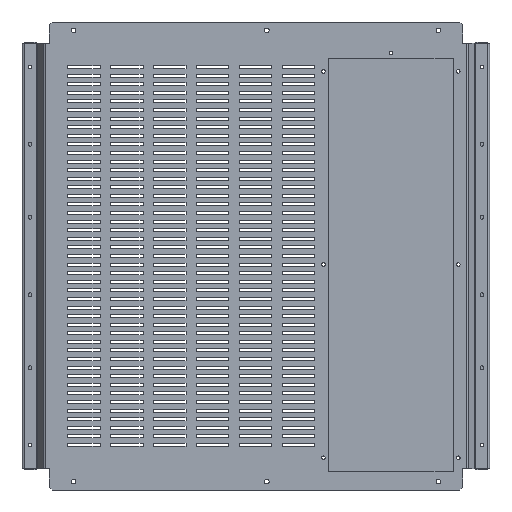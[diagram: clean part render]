
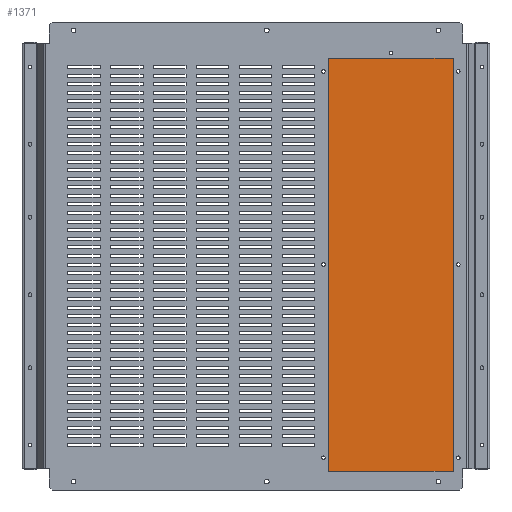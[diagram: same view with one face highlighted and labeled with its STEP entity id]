
A CAD part, left-side view. The second image highlights one B-rep face of the part: STEP entity #1371.
In plain terms, the highlighted planar face has unit normal (-1, 0, 0) as drawn and (0, 0, -1) by its records, which use the part's own axes.
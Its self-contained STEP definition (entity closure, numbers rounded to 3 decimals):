
#301=CARTESIAN_POINT(' ',(78.5,225.,-4.));
#306=DIRECTION(' ',(0.,-0.,1.));
#311=DIRECTION(' ',(-1.,0.,0.));
#316=AXIS2_PLACEMENT_3D(' ',#301,#306,#311);
#321=CIRCLE('',#316,2.75);
#326=CARTESIAN_POINT(' ',(75.75,225.,-4.));
#327=VERTEX_POINT(' ',#326);
#331=CARTESIAN_POINT(' ',(81.25,225.,-4.));
#332=VERTEX_POINT(' ',#331);
#336=EDGE_CURVE(' ',#327,#332,#321,.T.);
#466=DIRECTION(' ',(0.,-0.,-1.));
#471=CARTESIAN_POINT(' ',(-85.5,-253.5,-4.));
#476=DIRECTION(' ',(0.,1.,-0.));
#481=AXIS2_PLACEMENT_3D(' ',#471,#466,#476);
#486=PLANE('NONE',#481);
#491=CARTESIAN_POINT(' ',(-75.5,-253.5,-4.));
#496=DIRECTION(' ',(1.,0.,0.));
#501=VECTOR(' ',#496,1.);
#506=LINE('',#491,#501);
#511=CARTESIAN_POINT(' ',(-75.5,-253.5,-4.));
#512=VERTEX_POINT(' ',#511);
#516=CARTESIAN_POINT(' ',(75.5,-253.5,-4.));
#517=VERTEX_POINT(' ',#516);
#521=EDGE_CURVE(' ',#512,#517,#506,.T.);
#526=ORIENTED_EDGE(' ',*,*,#521,.F.);
#531=CARTESIAN_POINT(' ',(-75.5,-253.5,-4.));
#536=DIRECTION(' ',(-0.707,0.707,0.));
#541=VECTOR(' ',#536,1.);
#546=LINE('',#531,#541);
#551=CARTESIAN_POINT(' ',(-85.5,-243.5,-4.));
#552=VERTEX_POINT(' ',#551);
#556=EDGE_CURVE(' ',#512,#552,#546,.T.);
#561=ORIENTED_EDGE(' ',*,*,#556,.T.);
#566=CARTESIAN_POINT(' ',(-85.5,236.5,-4.));
#571=DIRECTION(' ',(0.,-1.,0.));
#576=VECTOR(' ',#571,1.);
#581=LINE('',#566,#576);
#586=CARTESIAN_POINT(' ',(-85.5,236.5,-4.));
#587=VERTEX_POINT(' ',#586);
#591=EDGE_CURVE(' ',#587,#552,#581,.T.);
#596=ORIENTED_EDGE(' ',*,*,#591,.F.);
#601=CARTESIAN_POINT(' ',(-85.5,236.5,-4.));
#606=DIRECTION(' ',(0.707,0.707,0.));
#611=VECTOR(' ',#606,1.);
#616=LINE('',#601,#611);
#621=CARTESIAN_POINT(' ',(-75.5,246.5,-4.));
#622=VERTEX_POINT(' ',#621);
#626=EDGE_CURVE(' ',#587,#622,#616,.T.);
#631=ORIENTED_EDGE(' ',*,*,#626,.T.);
#636=CARTESIAN_POINT(' ',(-75.5,246.5,-4.));
#641=DIRECTION(' ',(1.,0.,0.));
#646=VECTOR(' ',#641,1.);
#651=LINE('',#636,#646);
#656=CARTESIAN_POINT(' ',(75.5,246.5,-4.));
#657=VERTEX_POINT(' ',#656);
#661=EDGE_CURVE(' ',#622,#657,#651,.T.);
#666=ORIENTED_EDGE(' ',*,*,#661,.T.);
#671=CARTESIAN_POINT(' ',(75.5,246.5,-4.));
#676=DIRECTION(' ',(0.707,-0.707,0.));
#681=VECTOR(' ',#676,1.);
#686=LINE('',#671,#681);
#691=CARTESIAN_POINT(' ',(85.5,236.5,-4.));
#692=VERTEX_POINT(' ',#691);
#696=EDGE_CURVE(' ',#657,#692,#686,.T.);
#701=ORIENTED_EDGE(' ',*,*,#696,.T.);
#706=CARTESIAN_POINT(' ',(85.5,-243.5,-4.));
#711=DIRECTION(' ',(0.,1.,0.));
#716=VECTOR(' ',#711,1.);
#721=LINE('',#706,#716);
#726=CARTESIAN_POINT(' ',(85.5,-243.5,-4.));
#727=VERTEX_POINT(' ',#726);
#731=EDGE_CURVE(' ',#727,#692,#721,.T.);
#736=ORIENTED_EDGE(' ',*,*,#731,.F.);
#741=CARTESIAN_POINT(' ',(85.5,-243.5,-4.));
#746=DIRECTION(' ',(-0.707,-0.707,0.));
#751=VECTOR(' ',#746,1.);
#756=LINE('',#741,#751);
#761=EDGE_CURVE(' ',#727,#517,#756,.T.);
#766=ORIENTED_EDGE(' ',*,*,#761,.T.);
#771=EDGE_LOOP(' ',(#526,#561,#596,#631,#666,#701,#736,#766));
#776=FACE_OUTER_BOUND(' ',#771,.T.);
#781=CARTESIAN_POINT(' ',(78.5,0.,-4.));
#786=DIRECTION(' ',(0.,0.,1.));
#791=DIRECTION(' ',(1.,0.,0.));
#796=AXIS2_PLACEMENT_3D(' ',#781,#786,#791);
#801=CIRCLE('',#796,2.75);
#806=CARTESIAN_POINT(' ',(81.25,0.,-4.));
#807=VERTEX_POINT(' ',#806);
#811=CARTESIAN_POINT(' ',(75.75,0.,-4.));
#812=VERTEX_POINT(' ',#811);
#816=EDGE_CURVE(' ',#807,#812,#801,.T.);
#821=ORIENTED_EDGE(' ',*,*,#816,.T.);
#826=CARTESIAN_POINT(' ',(78.5,0.,-4.));
#831=DIRECTION(' ',(0.,-0.,1.));
#836=DIRECTION(' ',(-1.,0.,0.));
#841=AXIS2_PLACEMENT_3D(' ',#826,#831,#836);
#846=CIRCLE('',#841,2.75);
#851=EDGE_CURVE(' ',#812,#807,#846,.T.);
#856=ORIENTED_EDGE(' ',*,*,#851,.T.);
#861=EDGE_LOOP(' ',(#821,#856));
#866=FACE_BOUND(' ',#861,.T.);
#871=CARTESIAN_POINT(' ',(-78.5,-225.,-4.));
#876=DIRECTION(' ',(0.,0.,1.));
#881=DIRECTION(' ',(1.,0.,0.));
#886=AXIS2_PLACEMENT_3D(' ',#871,#876,#881);
#891=CIRCLE('',#886,2.75);
#896=CARTESIAN_POINT(' ',(-75.75,-225.,-4.));
#897=VERTEX_POINT(' ',#896);
#901=CARTESIAN_POINT(' ',(-81.25,-225.,-4.));
#902=VERTEX_POINT(' ',#901);
#906=EDGE_CURVE(' ',#897,#902,#891,.T.);
#911=ORIENTED_EDGE(' ',*,*,#906,.T.);
#916=CARTESIAN_POINT(' ',(-78.5,-225.,-4.));
#921=DIRECTION(' ',(0.,-0.,1.));
#926=DIRECTION(' ',(-1.,0.,0.));
#931=AXIS2_PLACEMENT_3D(' ',#916,#921,#926);
#936=CIRCLE('',#931,2.75);
#941=EDGE_CURVE(' ',#902,#897,#936,.T.);
#946=ORIENTED_EDGE(' ',*,*,#941,.T.);
#951=EDGE_LOOP(' ',(#911,#946));
#956=FACE_BOUND(' ',#951,.T.);
#961=CARTESIAN_POINT(' ',(0.,-246.5,-4.));
#966=DIRECTION(' ',(0.,0.,1.));
#971=DIRECTION(' ',(1.,0.,0.));
#976=AXIS2_PLACEMENT_3D(' ',#961,#966,#971);
#981=CIRCLE('',#976,2.75);
#986=CARTESIAN_POINT(' ',(2.75,-246.5,-4.));
#987=VERTEX_POINT(' ',#986);
#991=CARTESIAN_POINT(' ',(-2.75,-246.5,-4.));
#992=VERTEX_POINT(' ',#991);
#996=EDGE_CURVE(' ',#987,#992,#981,.T.);
#1001=ORIENTED_EDGE(' ',*,*,#996,.T.);
#1006=CARTESIAN_POINT(' ',(0.,-246.5,-4.));
#1011=DIRECTION(' ',(0.,-0.,1.));
#1016=DIRECTION(' ',(-1.,0.,0.));
#1021=AXIS2_PLACEMENT_3D(' ',#1006,#1011,#1016);
#1026=CIRCLE('',#1021,2.75);
#1031=EDGE_CURVE(' ',#992,#987,#1026,.T.);
#1036=ORIENTED_EDGE(' ',*,*,#1031,.T.);
#1041=EDGE_LOOP(' ',(#1001,#1036));
#1046=FACE_BOUND(' ',#1041,.T.);
#1051=CARTESIAN_POINT(' ',(78.5,-225.,-4.));
#1056=DIRECTION(' ',(0.,0.,1.));
#1061=DIRECTION(' ',(1.,0.,0.));
#1066=AXIS2_PLACEMENT_3D(' ',#1051,#1056,#1061);
#1071=CIRCLE('',#1066,2.75);
#1076=CARTESIAN_POINT(' ',(81.25,-225.,-4.));
#1077=VERTEX_POINT(' ',#1076);
#1081=CARTESIAN_POINT(' ',(75.75,-225.,-4.));
#1082=VERTEX_POINT(' ',#1081);
#1086=EDGE_CURVE(' ',#1077,#1082,#1071,.T.);
#1091=ORIENTED_EDGE(' ',*,*,#1086,.T.);
#1096=CARTESIAN_POINT(' ',(78.5,-225.,-4.));
#1101=DIRECTION(' ',(0.,-0.,1.));
#1106=DIRECTION(' ',(-1.,0.,0.));
#1111=AXIS2_PLACEMENT_3D(' ',#1096,#1101,#1106);
#1116=CIRCLE('',#1111,2.75);
#1121=EDGE_CURVE(' ',#1082,#1077,#1116,.T.);
#1126=ORIENTED_EDGE(' ',*,*,#1121,.T.);
#1131=EDGE_LOOP(' ',(#1091,#1126));
#1136=FACE_BOUND(' ',#1131,.T.);
#1141=CARTESIAN_POINT(' ',(-78.5,0.,-4.));
#1146=DIRECTION(' ',(0.,0.,1.));
#1151=DIRECTION(' ',(1.,0.,0.));
#1156=AXIS2_PLACEMENT_3D(' ',#1141,#1146,#1151);
#1161=CIRCLE('',#1156,2.75);
#1166=CARTESIAN_POINT(' ',(-75.75,0.,-4.));
#1167=VERTEX_POINT(' ',#1166);
#1171=CARTESIAN_POINT(' ',(-81.25,0.,-4.));
#1172=VERTEX_POINT(' ',#1171);
#1176=EDGE_CURVE(' ',#1167,#1172,#1161,.T.);
#1181=ORIENTED_EDGE(' ',*,*,#1176,.T.);
#1186=CARTESIAN_POINT(' ',(-78.5,0.,-4.));
#1191=DIRECTION(' ',(0.,-0.,1.));
#1196=DIRECTION(' ',(-1.,0.,0.));
#1201=AXIS2_PLACEMENT_3D(' ',#1186,#1191,#1196);
#1206=CIRCLE('',#1201,2.75);
#1211=EDGE_CURVE(' ',#1172,#1167,#1206,.T.);
#1216=ORIENTED_EDGE(' ',*,*,#1211,.T.);
#1221=EDGE_LOOP(' ',(#1181,#1216));
#1226=FACE_BOUND(' ',#1221,.T.);
#1231=CARTESIAN_POINT(' ',(-78.5,225.,-4.));
#1236=DIRECTION(' ',(0.,0.,1.));
#1241=DIRECTION(' ',(1.,0.,0.));
#1246=AXIS2_PLACEMENT_3D(' ',#1231,#1236,#1241);
#1251=CIRCLE('',#1246,2.75);
#1256=CARTESIAN_POINT(' ',(-75.75,225.,-4.));
#1257=VERTEX_POINT(' ',#1256);
#1261=CARTESIAN_POINT(' ',(-81.25,225.,-4.));
#1262=VERTEX_POINT(' ',#1261);
#1266=EDGE_CURVE(' ',#1257,#1262,#1251,.T.);
#1271=ORIENTED_EDGE(' ',*,*,#1266,.T.);
#1276=CARTESIAN_POINT(' ',(-78.5,225.,-4.));
#1281=DIRECTION(' ',(0.,-0.,1.));
#1286=DIRECTION(' ',(-1.,0.,0.));
#1291=AXIS2_PLACEMENT_3D(' ',#1276,#1281,#1286);
#1296=CIRCLE('',#1291,2.75);
#1301=EDGE_CURVE(' ',#1262,#1257,#1296,.T.);
#1306=ORIENTED_EDGE(' ',*,*,#1301,.T.);
#1311=EDGE_LOOP(' ',(#1271,#1306));
#1316=FACE_BOUND(' ',#1311,.T.);
#1321=CARTESIAN_POINT(' ',(78.5,225.,-4.));
#1326=DIRECTION(' ',(0.,0.,1.));
#1331=DIRECTION(' ',(1.,0.,0.));
#1336=AXIS2_PLACEMENT_3D(' ',#1321,#1326,#1331);
#1341=CIRCLE('',#1336,2.75);
#1346=EDGE_CURVE(' ',#332,#327,#1341,.T.);
#1351=ORIENTED_EDGE(' ',*,*,#1346,.T.);
#1356=ORIENTED_EDGE(' ',*,*,#336,.T.);
#1361=EDGE_LOOP(' ',(#1351,#1356));
#1366=FACE_BOUND(' ',#1361,.T.);
#1371=ADVANCED_FACE('NONE',(#776,#866,#956,#1046,#1136,#1226,#1316,#1366),#486,.T.);
